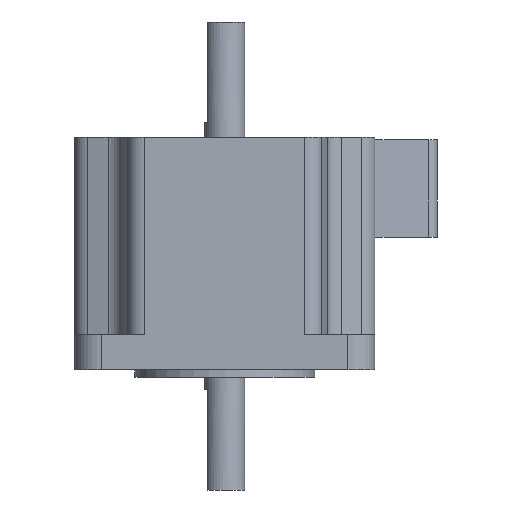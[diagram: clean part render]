
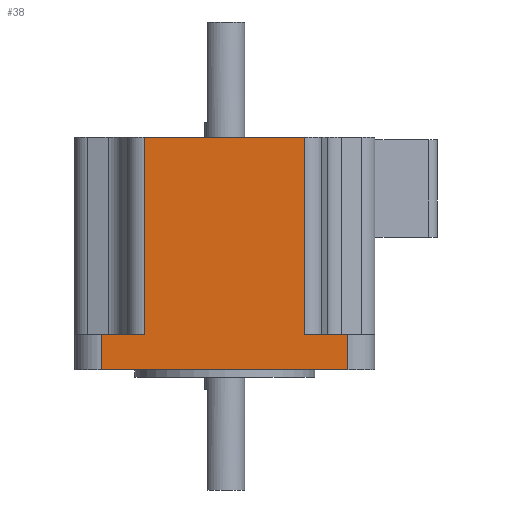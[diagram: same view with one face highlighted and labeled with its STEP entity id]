
A CAD part, left-side view. The second image highlights one B-rep face of the part: STEP entity #38.
In plain terms, the highlighted planar face has unit normal (-1, 0, 0).
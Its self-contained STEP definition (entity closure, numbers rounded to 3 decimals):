
#36 = EDGE_CURVE ( 'NONE', #2198, #2268, #1478, .T. ) ;
#38 = ADVANCED_FACE ( 'NONE', ( #1565 ), #2836, .F. ) ;
#96 = VECTOR ( 'NONE', #243, 1000. ) ;
#243 = DIRECTION ( 'NONE',  ( 0., -1., 0. ) ) ;
#389 = LINE ( 'NONE', #621, #1661 ) ;
#401 = VECTOR ( 'NONE', #796, 1000. ) ;
#483 = LINE ( 'NONE', #2759, #752 ) ;
#542 = DIRECTION ( 'NONE',  ( 0., 0., -1. ) ) ;
#621 = CARTESIAN_POINT ( 'NONE',  ( -30., -24.6, 11. ) ) ;
#698 = VERTEX_POINT ( 'NONE', #818 ) ;
#707 = EDGE_CURVE ( 'NONE', #2268, #956, #2258, .T. ) ;
#734 = VERTEX_POINT ( 'NONE', #3112 ) ;
#752 = VECTOR ( 'NONE', #1248, 1000. ) ;
#796 = DIRECTION ( 'NONE',  ( 0., -1., 0. ) ) ;
#811 = CARTESIAN_POINT ( 'NONE',  ( -30., -30., 0. ) ) ;
#818 = CARTESIAN_POINT ( 'NONE',  ( -30., 16., 7. ) ) ;
#896 = DIRECTION ( 'NONE',  ( 0., 0., 1. ) ) ;
#909 = CARTESIAN_POINT ( 'NONE',  ( -30., 24.6, 0. ) ) ;
#956 = VERTEX_POINT ( 'NONE', #1678 ) ;
#978 = CARTESIAN_POINT ( 'NONE',  ( -30., -16., 46.5 ) ) ;
#984 = VERTEX_POINT ( 'NONE', #909 ) ;
#997 = EDGE_CURVE ( 'NONE', #1355, #2198, #2611, .T. ) ;
#1098 = ORIENTED_EDGE ( 'NONE', *, *, #2221, .T. ) ;
#1155 = LINE ( 'NONE', #811, #1232 ) ;
#1226 = CARTESIAN_POINT ( 'NONE',  ( -30., -16., 46.5 ) ) ;
#1232 = VECTOR ( 'NONE', #2861, 1000. ) ;
#1248 = DIRECTION ( 'NONE',  ( 0., 0., -1. ) ) ;
#1355 = VERTEX_POINT ( 'NONE', #3047 ) ;
#1356 = ORIENTED_EDGE ( 'NONE', *, *, #997, .F. ) ;
#1384 = ORIENTED_EDGE ( 'NONE', *, *, #2137, .F. ) ;
#1448 = CARTESIAN_POINT ( 'NONE',  ( -30., -30., 46.5 ) ) ;
#1478 = LINE ( 'NONE', #1226, #1914 ) ;
#1565 = FACE_OUTER_BOUND ( 'NONE', #3082, .T. ) ;
#1599 = ORIENTED_EDGE ( 'NONE', *, *, #707, .F. ) ;
#1661 = VECTOR ( 'NONE', #896, 1000. ) ;
#1663 = LINE ( 'NONE', #2336, #2639 ) ;
#1678 = CARTESIAN_POINT ( 'NONE',  ( -30., -24.6, 7. ) ) ;
#1700 = DIRECTION ( 'NONE',  ( 0., -1., 0. ) ) ;
#1727 = EDGE_CURVE ( 'NONE', #3185, #698, #1746, .T. ) ;
#1746 = LINE ( 'NONE', #2234, #96 ) ;
#1914 = VECTOR ( 'NONE', #2488, 1000. ) ;
#1959 = ORIENTED_EDGE ( 'NONE', *, *, #2704, .T. ) ;
#2070 = DIRECTION ( 'NONE',  ( 1., 0., 0. ) ) ;
#2137 = EDGE_CURVE ( 'NONE', #734, #984, #1155, .T. ) ;
#2198 = VERTEX_POINT ( 'NONE', #978 ) ;
#2221 = EDGE_CURVE ( 'NONE', #3185, #984, #483, .T. ) ;
#2234 = CARTESIAN_POINT ( 'NONE',  ( -30., -291567., 7. ) ) ;
#2258 = LINE ( 'NONE', #2588, #401 ) ;
#2268 = VERTEX_POINT ( 'NONE', #2307 ) ;
#2299 = CARTESIAN_POINT ( 'NONE',  ( -30., 30., 35.5 ) ) ;
#2307 = CARTESIAN_POINT ( 'NONE',  ( -30., -16., 7. ) ) ;
#2336 = CARTESIAN_POINT ( 'NONE',  ( -30., 16., 46.5 ) ) ;
#2342 = ORIENTED_EDGE ( 'NONE', *, *, #2641, .T. ) ;
#2359 = DIRECTION ( 'NONE',  ( 0., 0., -1. ) ) ;
#2488 = DIRECTION ( 'NONE',  ( 0., 0., -1. ) ) ;
#2588 = CARTESIAN_POINT ( 'NONE',  ( -30., 400000., 7. ) ) ;
#2611 = LINE ( 'NONE', #1448, #2722 ) ;
#2639 = VECTOR ( 'NONE', #2359, 1000. ) ;
#2641 = EDGE_CURVE ( 'NONE', #1355, #698, #1663, .T. ) ;
#2647 = AXIS2_PLACEMENT_3D ( 'NONE', #2299, #2070, #542 ) ;
#2656 = ORIENTED_EDGE ( 'NONE', *, *, #36, .F. ) ;
#2704 = EDGE_CURVE ( 'NONE', #734, #956, #389, .T. ) ;
#2722 = VECTOR ( 'NONE', #1700, 1000. ) ;
#2746 = ORIENTED_EDGE ( 'NONE', *, *, #1727, .F. ) ;
#2759 = CARTESIAN_POINT ( 'NONE',  ( -30., 24.6, 11. ) ) ;
#2836 = PLANE ( 'NONE',  #2647 ) ;
#2861 = DIRECTION ( 'NONE',  ( 0., 1., 0. ) ) ;
#3047 = CARTESIAN_POINT ( 'NONE',  ( -30., 16., 46.5 ) ) ;
#3082 = EDGE_LOOP ( 'NONE', ( #2656, #1356, #2342, #2746, #1098, #1384, #1959, #1599 ) ) ;
#3112 = CARTESIAN_POINT ( 'NONE',  ( -30., -24.6, 0. ) ) ;
#3152 = CARTESIAN_POINT ( 'NONE',  ( -30., 24.6, 7. ) ) ;
#3185 = VERTEX_POINT ( 'NONE', #3152 ) ;
